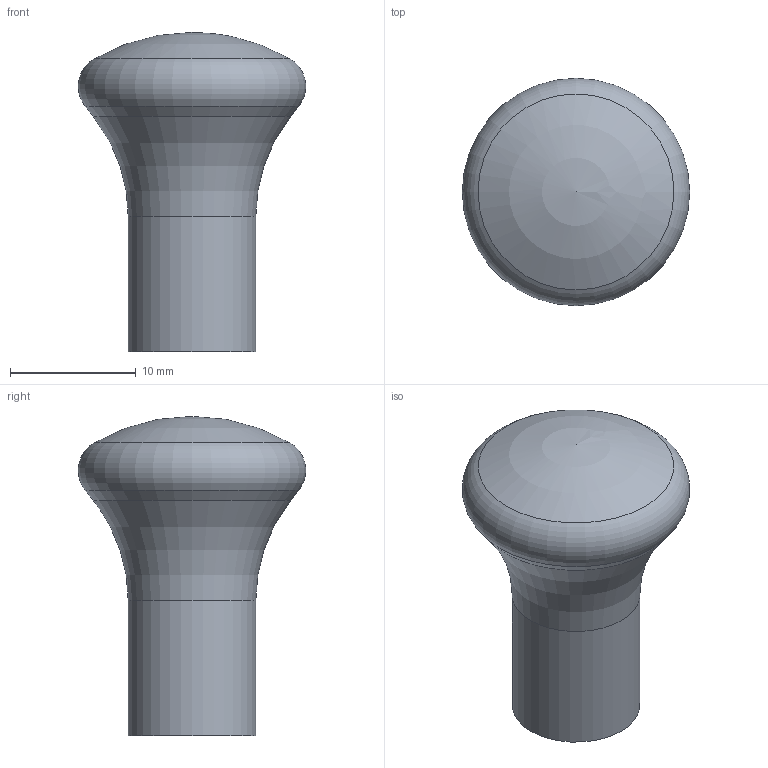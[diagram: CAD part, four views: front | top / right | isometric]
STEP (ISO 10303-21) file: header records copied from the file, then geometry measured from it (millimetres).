
FILE_DESCRIPTION(/* description */ (''),/* implementation_level */ '2;1');
FILE_NAME(/* name */ 'E:\eight way toy\knob.stp',/* time_stamp */ '2014-05-22T07:51:35-04:00',/* author */ ('PLTW'),/* organization */ (''),/* preprocessor_version */ 'ST-DEVELOPER v15.2',/* originating_system */ 'Autodesk Inventor 2014',/* authorisation */ '');
FILE_SCHEMA (('AUTOMOTIVE_DESIGN { 1 0 10303 214 3 1 1 }'));
Length unit declared in the file: inch
Products named in the file (1): knob
Bounding box: 18.09 x 18.09 x 25.4 mm (x, y, z)
Volume: 3029.5 mm3; surface area: 1304.5 mm2
Topology: 1 solids, 1 shells, 8 faces, 15 edges, 9 vertices
Faces by surface type: cylinder 2, plane 2, torus 2, cone 1, sphere 1
Full cylindrical faces by diameter (mm): 2.286 x1, 10.16 x1
Entity records: 177 total; most frequent: DIRECTION 32, CARTESIAN_POINT 23, AXIS2_PLACEMENT_3D 16, EDGE_LOOP 14, ORIENTED_EDGE 14, ADVANCED_FACE 8, FACE_BOUND 7, FACE_OUTER_BOUND 7
